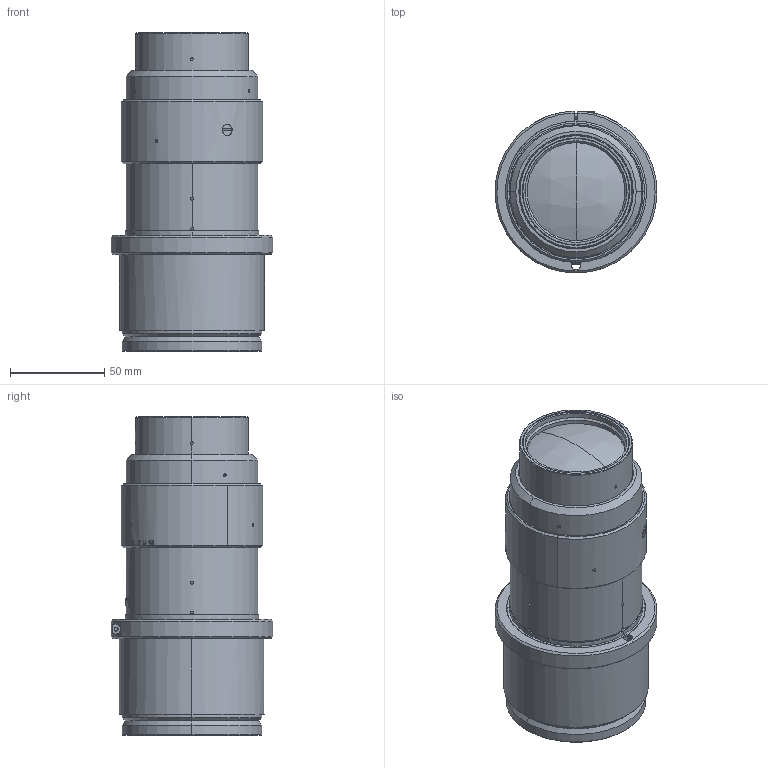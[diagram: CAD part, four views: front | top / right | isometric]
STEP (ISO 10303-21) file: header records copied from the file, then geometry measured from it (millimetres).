
FILE_DESCRIPTION (( 'STEP AP214' ), '1' );
FILE_NAME ('ML-LS9530-67V74-07.STEP', '2026-02-16T02:01:35', ( '' ), ( '' ), 'SwSTEP 2.0', 'SolidWorks 2025', '' );
FILE_SCHEMA (( 'AUTOMOTIVE_DESIGN' ));
Length unit declared in the file: millimetre
Products named in the file (1): ML-LS9530-67V74-07
Bounding box: 85.99 x 85.99 x 169.13 mm (x, y, z)
Volume: 609576.2 mm3; surface area: 60289.7 mm2
Topology: 1 solids, 1 shells, 531 faces, 1474 edges, 1022 vertices
Faces by surface type: cylinder 193, plane 168, bspline 100, cone 62, torus 4, sphere 4
Entity records: 28439 total; most frequent: CARTESIAN_POINT 15643, ORIENTED_EDGE 2936, DIRECTION 2204, EDGE_CURVE 1468, VERTEX_POINT 1022, AXIS2_PLACEMENT_3D 831, EDGE_LOOP 618, LINE 542
